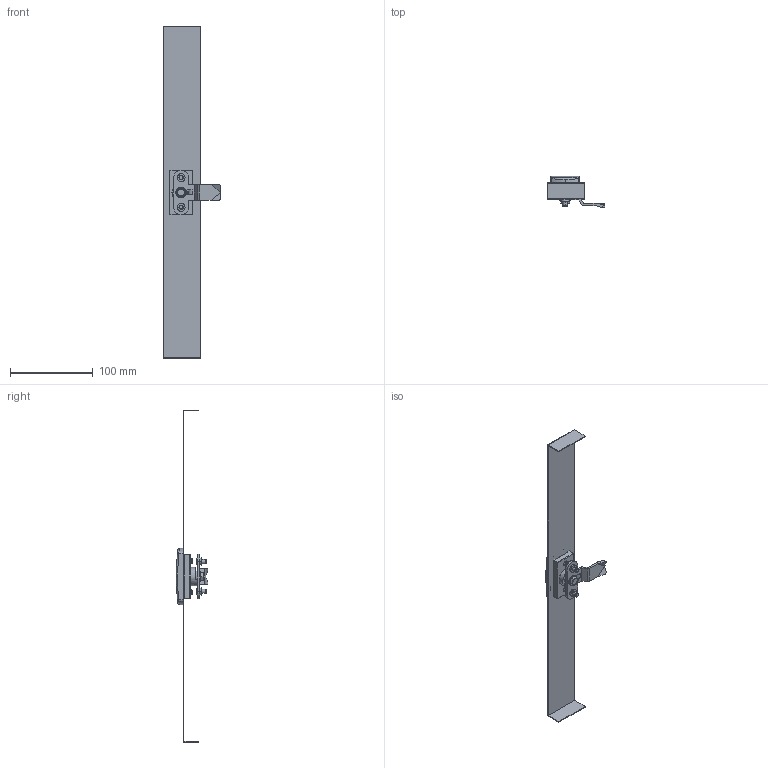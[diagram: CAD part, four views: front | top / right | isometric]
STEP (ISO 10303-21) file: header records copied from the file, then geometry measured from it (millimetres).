
FILE_DESCRIPTION (( 'STEP AP214' ), '1' );
FILE_NAME ('RW100N.STEP', '2010-02-26T12:05:45', ( 'Techniczny' ), ( 'RST Roztocze' ), 'SwSTEP 2.0', 'SolidWorks 2010', '' );
FILE_SCHEMA (( 'AUTOMOTIVE_DESIGN' ));
Length unit declared in the file: millimetre
Products named in the file (1): RW100N
Bounding box: 69.97 x 38.57 x 400.67 mm (x, y, z)
Volume: 54426.5 mm3; surface area: 58441.6 mm2
Topology: 10 solids, 10 shells, 407 faces, 1033 edges, 662 vertices
Faces by surface type: plane 206, cylinder 115, torus 52, cone 12, sphere 11, bspline 11
Entity records: 13917 total; most frequent: CARTESIAN_POINT 4197, ORIENTED_EDGE 2060, DIRECTION 1931, EDGE_CURVE 1030, AXIS2_PLACEMENT_3D 696, VERTEX_POINT 660, VECTOR 539, LINE 539
